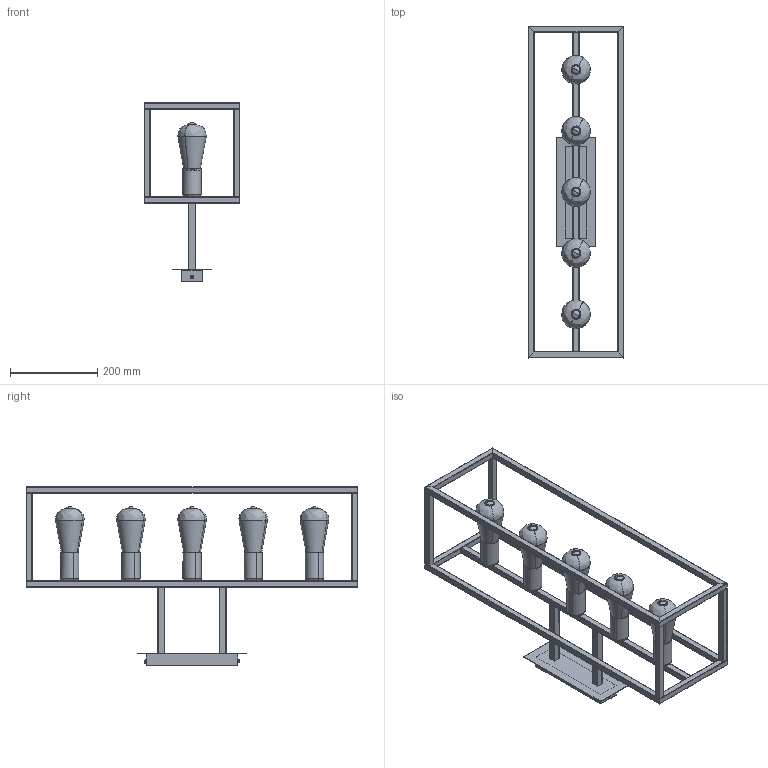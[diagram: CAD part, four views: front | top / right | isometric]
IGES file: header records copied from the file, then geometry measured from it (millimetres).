
Start section: SolidWorks IGES file using NURBS representation for surfaces
Global section: file name: Z:\Modele 3D_WWW\_KOLEKCJE_WWW\CRATE\CRATE-9047\CRATE-9047.IGS; native system: SolidWorks 2021; preprocessor: SolidWorks 2021; author: gabriela.tworek; date: 210913.091503; units: millimetre
Bounding box: 219.5 x 759.5 x 408.5 mm (x, y, z)
Surface area: 735201.3 mm2 (no closed solid volume)
Topology: 0 solids, 0 shells, 1265 faces, 12458 edges, 12419 vertices
Faces by surface type: bspline 1265
